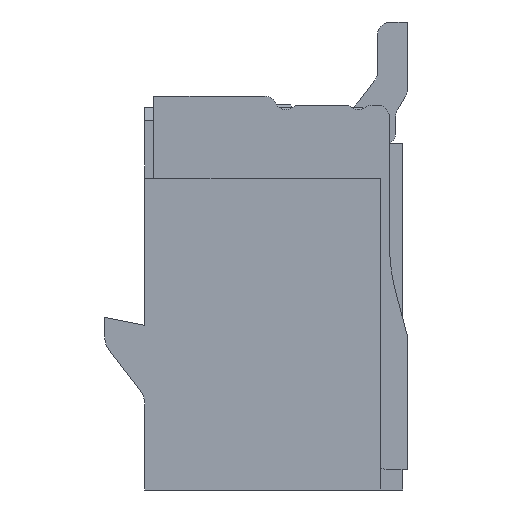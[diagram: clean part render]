
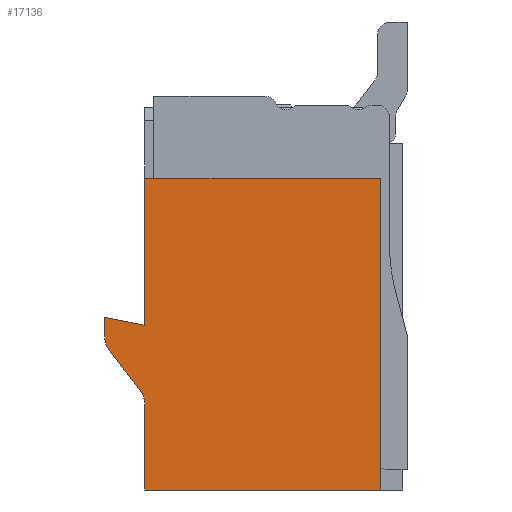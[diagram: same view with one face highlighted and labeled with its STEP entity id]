
A CAD part, left-side view. The second image highlights one B-rep face of the part: STEP entity #17136.
In plain terms, the highlighted planar face has unit normal (-1, 0, 0).
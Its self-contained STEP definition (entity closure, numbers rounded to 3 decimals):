
#580=FACE_OUTER_BOUND('',#1410,.T.);
#1410=EDGE_LOOP('',(#12247,#12248,#12249,#12250,#12251,#12252,#12253,#12254,
#12255,#12256));
#2590=LINE('',#25704,#4563);
#2592=LINE('',#25711,#4565);
#2593=LINE('',#25715,#4566);
#2594=LINE('',#25716,#4567);
#2595=LINE('',#25718,#4568);
#2596=LINE('',#25720,#4569);
#2597=LINE('',#25722,#4570);
#2598=LINE('',#25723,#4571);
#4563=VECTOR('',#20547,3.45);
#4565=VECTOR('',#20553,0.65);
#4566=VECTOR('',#20556,0.915);
#4567=VECTOR('',#20557,2.65);
#4568=VECTOR('',#20558,2.65);
#4569=VECTOR('',#20559,1.65);
#4570=VECTOR('',#20560,0.51);
#4571=VECTOR('',#20561,0.165);
#6235=CIRCLE('',#18179,0.25);
#6236=CIRCLE('',#18180,0.25);
#7204=VERTEX_POINT('',#25701);
#7205=VERTEX_POINT('',#25703);
#7206=VERTEX_POINT('',#25707);
#7207=VERTEX_POINT('',#25708);
#7208=VERTEX_POINT('',#25710);
#7209=VERTEX_POINT('',#25712);
#7210=VERTEX_POINT('',#25714);
#7211=VERTEX_POINT('',#25717);
#7212=VERTEX_POINT('',#25719);
#7213=VERTEX_POINT('',#25721);
#9140=EDGE_CURVE('',#7205,#7204,#2590,.T.);
#9142=EDGE_CURVE('',#7206,#7207,#6235,.T.);
#9143=EDGE_CURVE('',#7208,#7206,#2592,.T.);
#9144=EDGE_CURVE('',#7209,#7208,#6236,.T.);
#9145=EDGE_CURVE('',#7209,#7210,#2593,.T.);
#9146=EDGE_CURVE('',#7210,#7205,#2594,.T.);
#9147=EDGE_CURVE('',#7204,#7211,#2595,.T.);
#9148=EDGE_CURVE('',#7211,#7212,#2596,.T.);
#9149=EDGE_CURVE('',#7213,#7212,#2597,.T.);
#9150=EDGE_CURVE('',#7213,#7207,#2598,.T.);
#12247=ORIENTED_EDGE('',*,*,#9142,.F.);
#12248=ORIENTED_EDGE('',*,*,#9143,.F.);
#12249=ORIENTED_EDGE('',*,*,#9144,.F.);
#12250=ORIENTED_EDGE('',*,*,#9145,.T.);
#12251=ORIENTED_EDGE('',*,*,#9146,.T.);
#12252=ORIENTED_EDGE('',*,*,#9140,.T.);
#12253=ORIENTED_EDGE('',*,*,#9147,.T.);
#12254=ORIENTED_EDGE('',*,*,#9148,.T.);
#12255=ORIENTED_EDGE('',*,*,#9149,.F.);
#12256=ORIENTED_EDGE('',*,*,#9150,.T.);
#16566=PLANE('',#18178);
#17136=ADVANCED_FACE('',(#580),#16566,.F.);
#18178=AXIS2_PLACEMENT_3D('',#25706,#20549,#20550);
#18179=AXIS2_PLACEMENT_3D('',#25709,#20551,#20552);
#18180=AXIS2_PLACEMENT_3D('',#25713,#20554,#20555);
#20547=DIRECTION('',(0.,0.,1.));
#20549=DIRECTION('center_axis',(1.,0.,0.));
#20550=DIRECTION('ref_axis',(0.,-1.,0.));
#20551=DIRECTION('center_axis',(1.,0.,0.));
#20552=DIRECTION('ref_axis',(0.,0.947,-0.322));
#20553=DIRECTION('',(0.,0.61,0.793));
#20554=DIRECTION('center_axis',(-1.,0.,0.));
#20555=DIRECTION('ref_axis',(0.,-1.,0.));
#20556=DIRECTION('',(0.,0.,-1.));
#20557=DIRECTION('',(0.,-1.,0.));
#20558=DIRECTION('',(0.,1.,0.));
#20559=DIRECTION('',(0.,0.,-1.));
#20560=DIRECTION('',(0.,-0.981,-0.196));
#20561=DIRECTION('',(0.,0.,-1.));
#25701=CARTESIAN_POINT('',(-3.,-1.2,1.325));
#25703=CARTESIAN_POINT('',(-3.,-1.2,-2.175));
#25704=CARTESIAN_POINT('',(-3.,-1.2,-2.125));
#25706=CARTESIAN_POINT('Origin',(-3.,0.375,-0.4));
#25707=CARTESIAN_POINT('',(-3.,1.848,-0.607));
#25708=CARTESIAN_POINT('',(-3.,1.9,-0.455));
#25709=CARTESIAN_POINT('Origin',(-3.,1.65,-0.455));
#25710=CARTESIAN_POINT('',(-3.,1.502,-1.058));
#25711=CARTESIAN_POINT('',(-3.,1.502,-1.058));
#25712=CARTESIAN_POINT('',(-3.,1.45,-1.21));
#25713=CARTESIAN_POINT('Origin',(-3.,1.7,-1.21));
#25714=CARTESIAN_POINT('',(-3.,1.45,-2.175));
#25715=CARTESIAN_POINT('',(-3.,1.45,-1.21));
#25716=CARTESIAN_POINT('',(-3.,1.45,-2.175));
#25717=CARTESIAN_POINT('',(-3.,1.45,1.325));
#25718=CARTESIAN_POINT('',(-3.,-1.2,1.325));
#25719=CARTESIAN_POINT('',(-3.,1.45,-0.325));
#25720=CARTESIAN_POINT('',(-3.,1.45,1.325));
#25721=CARTESIAN_POINT('',(-3.,1.9,-0.235));
#25722=CARTESIAN_POINT('',(-3.,1.95,-0.225));
#25723=CARTESIAN_POINT('',(-3.,1.9,-0.225));
